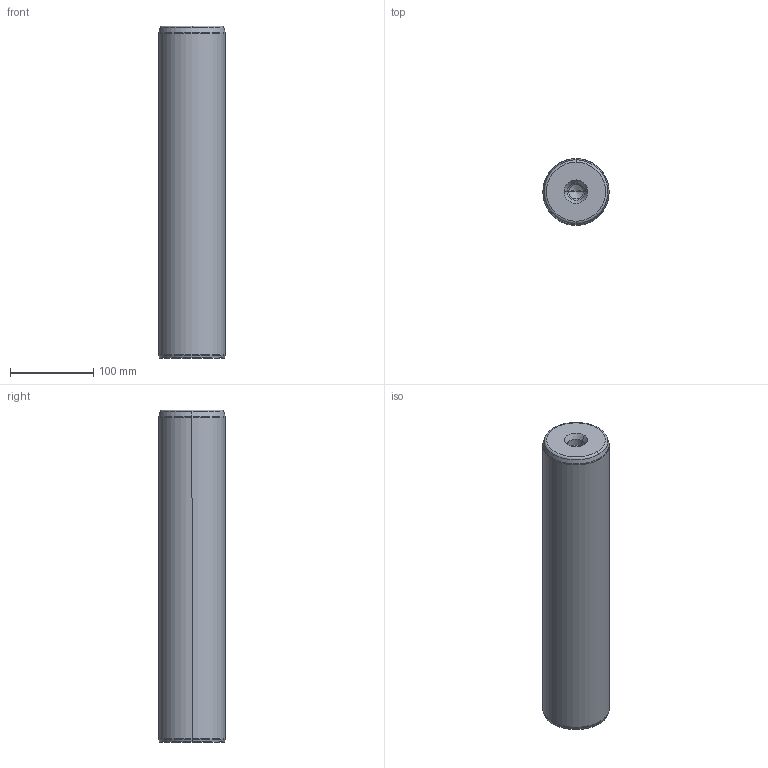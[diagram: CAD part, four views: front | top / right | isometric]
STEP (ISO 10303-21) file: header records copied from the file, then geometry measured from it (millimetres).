
FILE_DESCRIPTION((''),'2;1');
FILE_NAME('P10_080_400.stp','2008-12-23T15:08:49',(''),(''),'Mechanical Desktop 2009','Mechanical Desktop 2009',', , ');
FILE_SCHEMA(('CONFIG_CONTROL_DESIGN'));
Length unit declared in the file: millimetre
Products named in the file (5): Product; ProductAA; blmdl1; ProductA; blmdl1A
Assembly tree (2 placements, depth 3):
  Product
    ProductAA
      blmdl1
  ProductA
  blmdl1A
Bounding box: 80 x 80 x 400 mm (x, y, z)
Volume: 1992138.1 mm3; surface area: 112606 mm2
Topology: 1 solids, 1 shells, 26 faces, 66 edges, 41 vertices
Faces by surface type: cone 10, torus 8, cylinder 6, plane 2
Entity records: 1012 total; most frequent: DIRECTION 170, CARTESIAN_POINT 134, ORIENTED_EDGE 128, AXIS2_PLACEMENT_3D 77, EDGE_CURVE 64, CIRCLE 48, VERTEX_POINT 41, EDGE_LOOP 27
